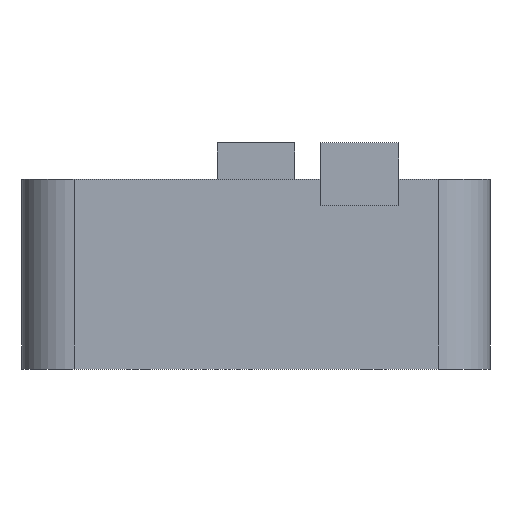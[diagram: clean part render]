
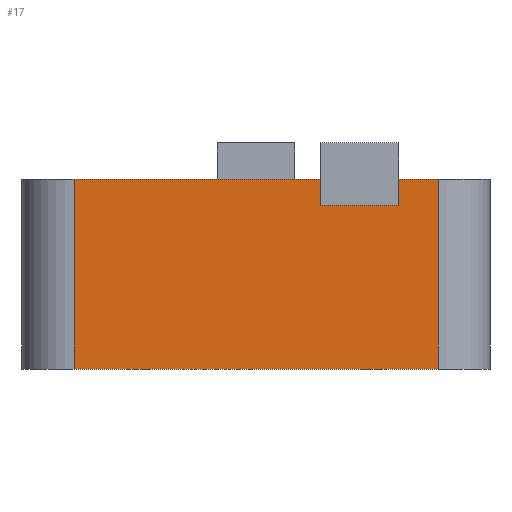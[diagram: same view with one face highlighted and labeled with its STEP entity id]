
A CAD part, left-side view. The second image highlights one B-rep face of the part: STEP entity #17.
In plain terms, the highlighted planar face has unit normal (-1, 0, 0).
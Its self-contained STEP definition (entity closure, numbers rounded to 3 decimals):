
#17 = ADVANCED_FACE('',(#18),#32,.F.);
#18 = FACE_BOUND('',#19,.F.);
#19 = EDGE_LOOP('',(#20,#55,#83,#111,#139,#166,#193,#220));
#20 = ORIENTED_EDGE('',*,*,#21,.F.);
#21 = EDGE_CURVE('',#22,#24,#26,.T.);
#22 = VERTEX_POINT('',#23);
#23 = CARTESIAN_POINT('',(-9.,-45.,2.5));
#24 = VERTEX_POINT('',#25);
#25 = CARTESIAN_POINT('',(-9.,-45.,9.8));
#26 = SURFACE_CURVE('',#27,(#31,#43),.PCURVE_S1.);
#27 = LINE('',#28,#29);
#28 = CARTESIAN_POINT('',(-9.,-45.,2.5));
#29 = VECTOR('',#30,1.);
#30 = DIRECTION('',(0.,0.,1.));
#31 = PCURVE('',#32,#37);
#32 = PLANE('',#33);
#33 = AXIS2_PLACEMENT_3D('',#34,#35,#36);
#34 = CARTESIAN_POINT('',(-9.,-47.,2.5));
#35 = DIRECTION('',(1.,0.,0.));
#36 = DIRECTION('',(0.,0.,1.));
#37 = DEFINITIONAL_REPRESENTATION('',(#38),#42);
#38 = LINE('',#39,#40);
#39 = CARTESIAN_POINT('',(0.,-2.));
#40 = VECTOR('',#41,1.);
#41 = DIRECTION('',(1.,0.));
#42 = ( GEOMETRIC_REPRESENTATION_CONTEXT(2) 
PARAMETRIC_REPRESENTATION_CONTEXT() REPRESENTATION_CONTEXT('2D SPACE',''
  ) );
#43 = PCURVE('',#44,#49);
#44 = CYLINDRICAL_SURFACE('',#45,2.);
#45 = AXIS2_PLACEMENT_3D('',#46,#47,#48);
#46 = CARTESIAN_POINT('',(-7.,-45.,2.5));
#47 = DIRECTION('',(0.,0.,1.));
#48 = DIRECTION('',(-1.,-0.,0.));
#49 = DEFINITIONAL_REPRESENTATION('',(#50),#54);
#50 = LINE('',#51,#52);
#51 = CARTESIAN_POINT('',(0.,0.));
#52 = VECTOR('',#53,1.);
#53 = DIRECTION('',(0.,1.));
#54 = ( GEOMETRIC_REPRESENTATION_CONTEXT(2) 
PARAMETRIC_REPRESENTATION_CONTEXT() REPRESENTATION_CONTEXT('2D SPACE',''
  ) );
#55 = ORIENTED_EDGE('',*,*,#56,.T.);
#56 = EDGE_CURVE('',#22,#57,#59,.T.);
#57 = VERTEX_POINT('',#58);
#58 = CARTESIAN_POINT('',(-9.,-31.,2.5));
#59 = SURFACE_CURVE('',#60,(#64,#71),.PCURVE_S1.);
#60 = LINE('',#61,#62);
#61 = CARTESIAN_POINT('',(-9.,-47.,2.5));
#62 = VECTOR('',#63,1.);
#63 = DIRECTION('',(0.,1.,0.));
#64 = PCURVE('',#32,#65);
#65 = DEFINITIONAL_REPRESENTATION('',(#66),#70);
#66 = LINE('',#67,#68);
#67 = CARTESIAN_POINT('',(0.,0.));
#68 = VECTOR('',#69,1.);
#69 = DIRECTION('',(0.,-1.));
#70 = ( GEOMETRIC_REPRESENTATION_CONTEXT(2) 
PARAMETRIC_REPRESENTATION_CONTEXT() REPRESENTATION_CONTEXT('2D SPACE',''
  ) );
#71 = PCURVE('',#72,#77);
#72 = PLANE('',#73);
#73 = AXIS2_PLACEMENT_3D('',#74,#75,#76);
#74 = CARTESIAN_POINT('',(-9.,-47.,2.5));
#75 = DIRECTION('',(0.,0.,1.));
#76 = DIRECTION('',(1.,0.,0.));
#77 = DEFINITIONAL_REPRESENTATION('',(#78),#82);
#78 = LINE('',#79,#80);
#79 = CARTESIAN_POINT('',(0.,0.));
#80 = VECTOR('',#81,1.);
#81 = DIRECTION('',(0.,1.));
#82 = ( GEOMETRIC_REPRESENTATION_CONTEXT(2) 
PARAMETRIC_REPRESENTATION_CONTEXT() REPRESENTATION_CONTEXT('2D SPACE',''
  ) );
#83 = ORIENTED_EDGE('',*,*,#84,.F.);
#84 = EDGE_CURVE('',#85,#57,#87,.T.);
#85 = VERTEX_POINT('',#86);
#86 = CARTESIAN_POINT('',(-9.,-31.,9.8));
#87 = SURFACE_CURVE('',#88,(#92,#99),.PCURVE_S1.);
#88 = LINE('',#89,#90);
#89 = CARTESIAN_POINT('',(-9.,-31.,9.8));
#90 = VECTOR('',#91,1.);
#91 = DIRECTION('',(0.,0.,-1.));
#92 = PCURVE('',#32,#93);
#93 = DEFINITIONAL_REPRESENTATION('',(#94),#98);
#94 = LINE('',#95,#96);
#95 = CARTESIAN_POINT('',(7.3,-16.));
#96 = VECTOR('',#97,1.);
#97 = DIRECTION('',(-1.,0.));
#98 = ( GEOMETRIC_REPRESENTATION_CONTEXT(2) 
PARAMETRIC_REPRESENTATION_CONTEXT() REPRESENTATION_CONTEXT('2D SPACE',''
  ) );
#99 = PCURVE('',#100,#105);
#100 = CYLINDRICAL_SURFACE('',#101,2.);
#101 = AXIS2_PLACEMENT_3D('',#102,#103,#104);
#102 = CARTESIAN_POINT('',(-7.,-31.,2.5));
#103 = DIRECTION('',(0.,0.,1.));
#104 = DIRECTION('',(-1.,-0.,0.));
#105 = DEFINITIONAL_REPRESENTATION('',(#106),#110);
#106 = LINE('',#107,#108);
#107 = CARTESIAN_POINT('',(-0.,7.3));
#108 = VECTOR('',#109,1.);
#109 = DIRECTION('',(-0.,-1.));
#110 = ( GEOMETRIC_REPRESENTATION_CONTEXT(2) 
PARAMETRIC_REPRESENTATION_CONTEXT() REPRESENTATION_CONTEXT('2D SPACE',''
  ) );
#111 = ORIENTED_EDGE('',*,*,#112,.F.);
#112 = EDGE_CURVE('',#113,#85,#115,.T.);
#113 = VERTEX_POINT('',#114);
#114 = CARTESIAN_POINT('',(-9.,-40.5,9.8));
#115 = SURFACE_CURVE('',#116,(#120,#127),.PCURVE_S1.);
#116 = LINE('',#117,#118);
#117 = CARTESIAN_POINT('',(-9.,-47.,9.8));
#118 = VECTOR('',#119,1.);
#119 = DIRECTION('',(0.,1.,0.));
#120 = PCURVE('',#32,#121);
#121 = DEFINITIONAL_REPRESENTATION('',(#122),#126);
#122 = LINE('',#123,#124);
#123 = CARTESIAN_POINT('',(7.3,0.));
#124 = VECTOR('',#125,1.);
#125 = DIRECTION('',(0.,-1.));
#126 = ( GEOMETRIC_REPRESENTATION_CONTEXT(2) 
PARAMETRIC_REPRESENTATION_CONTEXT() REPRESENTATION_CONTEXT('2D SPACE',''
  ) );
#127 = PCURVE('',#128,#133);
#128 = PLANE('',#129);
#129 = AXIS2_PLACEMENT_3D('',#130,#131,#132);
#130 = CARTESIAN_POINT('',(-9.,-47.,9.8));
#131 = DIRECTION('',(0.,0.,1.));
#132 = DIRECTION('',(1.,0.,0.));
#133 = DEFINITIONAL_REPRESENTATION('',(#134),#138);
#134 = LINE('',#135,#136);
#135 = CARTESIAN_POINT('',(0.,0.));
#136 = VECTOR('',#137,1.);
#137 = DIRECTION('',(0.,1.));
#138 = ( GEOMETRIC_REPRESENTATION_CONTEXT(2) 
PARAMETRIC_REPRESENTATION_CONTEXT() REPRESENTATION_CONTEXT('2D SPACE',''
  ) );
#139 = ORIENTED_EDGE('',*,*,#140,.F.);
#140 = EDGE_CURVE('',#141,#113,#143,.T.);
#141 = VERTEX_POINT('',#142);
#142 = CARTESIAN_POINT('',(-9.,-40.5,8.8));
#143 = SURFACE_CURVE('',#144,(#148,#154),.PCURVE_S1.);
#144 = LINE('',#145,#146);
#145 = CARTESIAN_POINT('',(-9.,-40.5,5.65));
#146 = VECTOR('',#147,1.);
#147 = DIRECTION('',(0.,0.,1.));
#148 = PCURVE('',#32,#149);
#149 = DEFINITIONAL_REPRESENTATION('',(#150),#153);
#150 = B_SPLINE_CURVE_WITH_KNOTS('',1,(#151,#152),.UNSPECIFIED.,.F.,.F.,
  (2,2),(3.15,4.15),.PIECEWISE_BEZIER_KNOTS.);
#151 = CARTESIAN_POINT('',(6.3,-6.5));
#152 = CARTESIAN_POINT('',(7.3,-6.5));
#153 = ( GEOMETRIC_REPRESENTATION_CONTEXT(2) 
PARAMETRIC_REPRESENTATION_CONTEXT() REPRESENTATION_CONTEXT('2D SPACE',''
  ) );
#154 = PCURVE('',#155,#160);
#155 = PLANE('',#156);
#156 = AXIS2_PLACEMENT_3D('',#157,#158,#159);
#157 = CARTESIAN_POINT('',(-22.,-40.5,8.8));
#158 = DIRECTION('',(0.,1.,0.));
#159 = DIRECTION('',(0.,0.,1.));
#160 = DEFINITIONAL_REPRESENTATION('',(#161),#165);
#161 = LINE('',#162,#163);
#162 = CARTESIAN_POINT('',(-3.15,13.));
#163 = VECTOR('',#164,1.);
#164 = DIRECTION('',(1.,0.));
#165 = ( GEOMETRIC_REPRESENTATION_CONTEXT(2) 
PARAMETRIC_REPRESENTATION_CONTEXT() REPRESENTATION_CONTEXT('2D SPACE',''
  ) );
#166 = ORIENTED_EDGE('',*,*,#167,.T.);
#167 = EDGE_CURVE('',#141,#168,#170,.T.);
#168 = VERTEX_POINT('',#169);
#169 = CARTESIAN_POINT('',(-9.,-43.5,8.8));
#170 = SURFACE_CURVE('',#171,(#175,#181),.PCURVE_S1.);
#171 = LINE('',#172,#173);
#172 = CARTESIAN_POINT('',(-9.,-45.25,8.8));
#173 = VECTOR('',#174,1.);
#174 = DIRECTION('',(0.,-1.,0.));
#175 = PCURVE('',#32,#176);
#176 = DEFINITIONAL_REPRESENTATION('',(#177),#180);
#177 = B_SPLINE_CURVE_WITH_KNOTS('',1,(#178,#179),.UNSPECIFIED.,.F.,.F.,
  (2,2),(-4.75,-1.75),.PIECEWISE_BEZIER_KNOTS.);
#178 = CARTESIAN_POINT('',(6.3,-6.5));
#179 = CARTESIAN_POINT('',(6.3,-3.5));
#180 = ( GEOMETRIC_REPRESENTATION_CONTEXT(2) 
PARAMETRIC_REPRESENTATION_CONTEXT() REPRESENTATION_CONTEXT('2D SPACE',''
  ) );
#181 = PCURVE('',#182,#187);
#182 = PLANE('',#183);
#183 = AXIS2_PLACEMENT_3D('',#184,#185,#186);
#184 = CARTESIAN_POINT('',(-22.,-43.5,8.8));
#185 = DIRECTION('',(0.,0.,1.));
#186 = DIRECTION('',(1.,0.,0.));
#187 = DEFINITIONAL_REPRESENTATION('',(#188),#192);
#188 = LINE('',#189,#190);
#189 = CARTESIAN_POINT('',(13.,-1.75));
#190 = VECTOR('',#191,1.);
#191 = DIRECTION('',(0.,-1.));
#192 = ( GEOMETRIC_REPRESENTATION_CONTEXT(2) 
PARAMETRIC_REPRESENTATION_CONTEXT() REPRESENTATION_CONTEXT('2D SPACE',''
  ) );
#193 = ORIENTED_EDGE('',*,*,#194,.T.);
#194 = EDGE_CURVE('',#168,#195,#197,.T.);
#195 = VERTEX_POINT('',#196);
#196 = CARTESIAN_POINT('',(-9.,-43.5,9.8));
#197 = SURFACE_CURVE('',#198,(#202,#208),.PCURVE_S1.);
#198 = LINE('',#199,#200);
#199 = CARTESIAN_POINT('',(-9.,-43.5,5.65));
#200 = VECTOR('',#201,1.);
#201 = DIRECTION('',(0.,0.,1.));
#202 = PCURVE('',#32,#203);
#203 = DEFINITIONAL_REPRESENTATION('',(#204),#207);
#204 = B_SPLINE_CURVE_WITH_KNOTS('',1,(#205,#206),.UNSPECIFIED.,.F.,.F.,
  (2,2),(3.15,4.15),.PIECEWISE_BEZIER_KNOTS.);
#205 = CARTESIAN_POINT('',(6.3,-3.5));
#206 = CARTESIAN_POINT('',(7.3,-3.5));
#207 = ( GEOMETRIC_REPRESENTATION_CONTEXT(2) 
PARAMETRIC_REPRESENTATION_CONTEXT() REPRESENTATION_CONTEXT('2D SPACE',''
  ) );
#208 = PCURVE('',#209,#214);
#209 = PLANE('',#210);
#210 = AXIS2_PLACEMENT_3D('',#211,#212,#213);
#211 = CARTESIAN_POINT('',(-22.,-43.5,8.8));
#212 = DIRECTION('',(0.,1.,0.));
#213 = DIRECTION('',(0.,0.,1.));
#214 = DEFINITIONAL_REPRESENTATION('',(#215),#219);
#215 = LINE('',#216,#217);
#216 = CARTESIAN_POINT('',(-3.15,13.));
#217 = VECTOR('',#218,1.);
#218 = DIRECTION('',(1.,0.));
#219 = ( GEOMETRIC_REPRESENTATION_CONTEXT(2) 
PARAMETRIC_REPRESENTATION_CONTEXT() REPRESENTATION_CONTEXT('2D SPACE',''
  ) );
#220 = ORIENTED_EDGE('',*,*,#221,.F.);
#221 = EDGE_CURVE('',#24,#195,#222,.T.);
#222 = SURFACE_CURVE('',#223,(#227,#234),.PCURVE_S1.);
#223 = LINE('',#224,#225);
#224 = CARTESIAN_POINT('',(-9.,-47.,9.8));
#225 = VECTOR('',#226,1.);
#226 = DIRECTION('',(0.,1.,0.));
#227 = PCURVE('',#32,#228);
#228 = DEFINITIONAL_REPRESENTATION('',(#229),#233);
#229 = LINE('',#230,#231);
#230 = CARTESIAN_POINT('',(7.3,0.));
#231 = VECTOR('',#232,1.);
#232 = DIRECTION('',(0.,-1.));
#233 = ( GEOMETRIC_REPRESENTATION_CONTEXT(2) 
PARAMETRIC_REPRESENTATION_CONTEXT() REPRESENTATION_CONTEXT('2D SPACE',''
  ) );
#234 = PCURVE('',#128,#235);
#235 = DEFINITIONAL_REPRESENTATION('',(#236),#240);
#236 = LINE('',#237,#238);
#237 = CARTESIAN_POINT('',(0.,0.));
#238 = VECTOR('',#239,1.);
#239 = DIRECTION('',(0.,1.));
#240 = ( GEOMETRIC_REPRESENTATION_CONTEXT(2) 
PARAMETRIC_REPRESENTATION_CONTEXT() REPRESENTATION_CONTEXT('2D SPACE',''
  ) );
